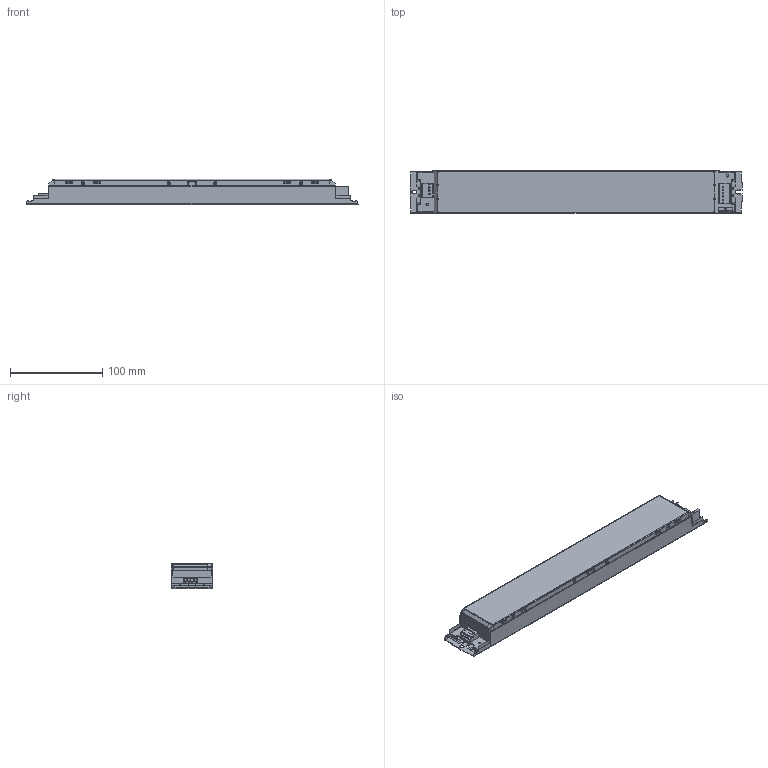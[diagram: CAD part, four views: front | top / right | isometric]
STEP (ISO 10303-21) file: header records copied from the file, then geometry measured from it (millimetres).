
FILE_DESCRIPTION (( 'STEP AP214' ), '1' );
FILE_NAME ('4264483swm000.step', '2020-11-25T03:13:25', ( 'Windows User' ), ( '' ), 'SwSTEP 2.0', 'SolidWorks 2020', '' );
FILE_SCHEMA (( 'AUTOMOTIVE_DESIGN' ));
Length unit declared in the file: millimetre
Products named in the file (1): 4264483swm000
Bounding box: 359 x 45.4 x 27.5 mm (x, y, z)
Volume: 385763.3 mm3; surface area: 76099 mm2
Topology: 1 solids, 17 shells, 1947 faces, 5309 edges, 3337 vertices
Faces by surface type: plane 1258, cylinder 577, bspline 68, sphere 28, cone 16
Entity records: 68159 total; most frequent: CARTESIAN_POINT 13486, ORIENTED_EDGE 10554, DIRECTION 9580, EDGE_CURVE 5277, LINE 3820, VECTOR 3820, VERTEX_POINT 3337, AXIS2_PLACEMENT_3D 2880
